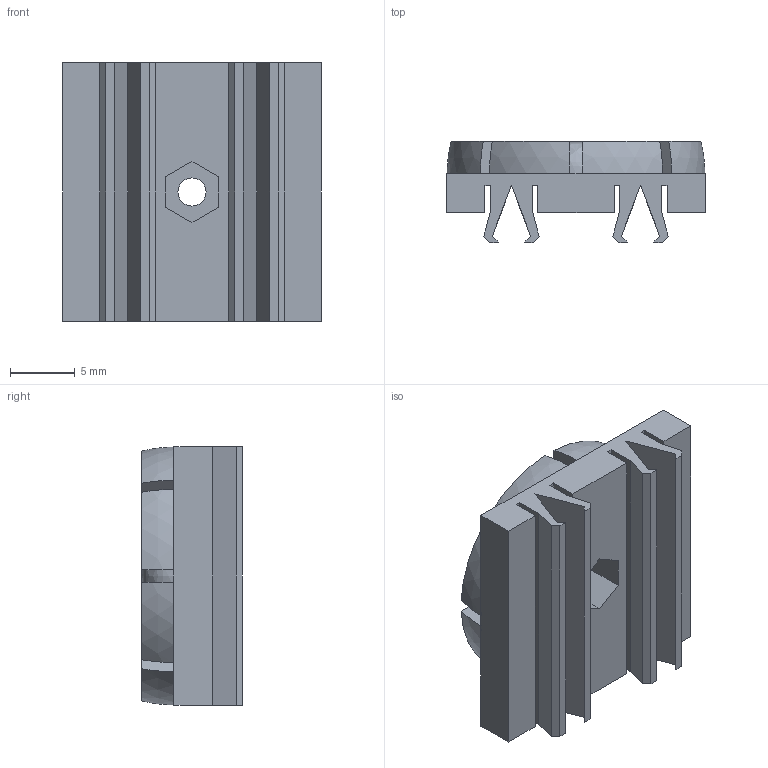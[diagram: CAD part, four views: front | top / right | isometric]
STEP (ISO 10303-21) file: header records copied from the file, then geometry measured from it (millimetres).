
FILE_DESCRIPTION(/* description */ (''),/* implementation_level */ '2;1');
FILE_NAME(/* name */ 'C:/Users/priba/Downloads/RotaryJointRoundBottom.step',/* time_stamp */ '2021-09-17T16:18:04+02:00',/* author */ (''),/* organization */ (''),/* preprocessor_version */ 'ST-DEVELOPER v18.1',/* originating_system */ 'Autodesk Translation Framework v10.10.0.1391',/* authorisation */ '');
FILE_SCHEMA (('AUTOMOTIVE_DESIGN { 1 0 10303 214 3 1 1 }'));
Length unit declared in the file: millimetre
Products named in the file (2): RotaryJointRoundBottom; LowerHalf
Assembly tree (1 placements, depth 2):
  RotaryJointRoundBottom
    LowerHalf
Bounding box: 20 x 7.81 x 20 mm (x, y, z)
Volume: 1451.9 mm3; surface area: 2297.6 mm2
Topology: 1 solids, 1 shells, 92 faces, 240 edges, 160 vertices
Faces by surface type: plane 66, sphere 16, cone 8, bspline 1, cylinder 1
Full cylindrical faces by diameter (mm): 2.177 x1
Entity records: 2885 total; most frequent: CARTESIAN_POINT 553, DIRECTION 481, ORIENTED_EDGE 480, EDGE_CURVE 240, AXIS2_PLACEMENT_3D 163, VERTEX_POINT 160, LINE 155, VECTOR 155
